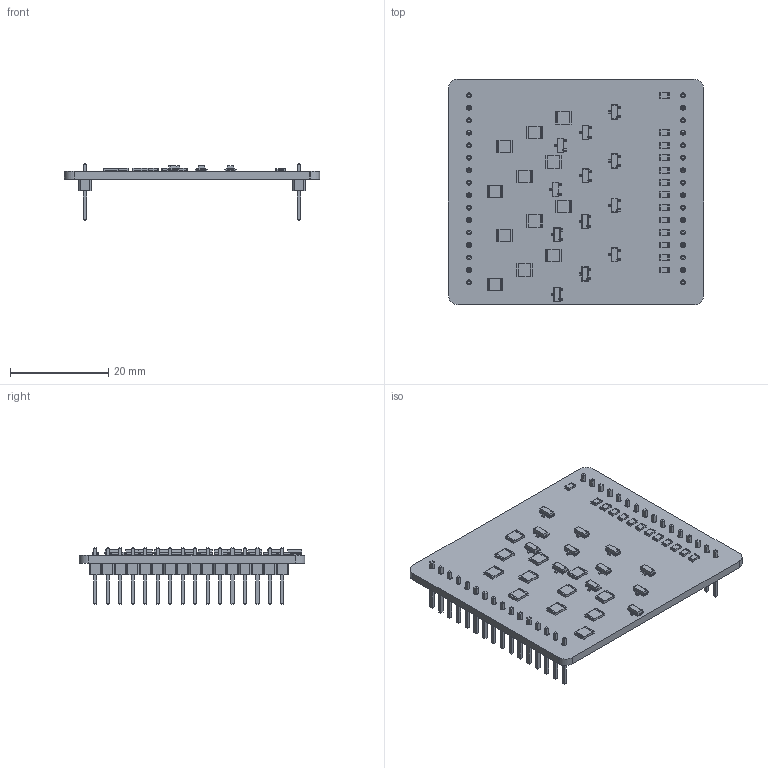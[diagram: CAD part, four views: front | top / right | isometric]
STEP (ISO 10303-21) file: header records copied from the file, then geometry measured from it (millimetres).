
FILE_DESCRIPTION(('KiCad electronic assembly'),'2;1');
FILE_NAME('BMS - Passive Balancer v2.step','2025-02-23T21:03:19',( 'Pcbnew'),('Kicad'),'Open CASCADE STEP processor 7.8', 'KiCad to STEP converter','Unknown');
FILE_SCHEMA(('AUTOMOTIVE_DESIGN { 1 0 10303 214 1 1 1 1 }'));
Length unit declared in the file: millimetre
Products named in the file (10): BMS - Passive Balancer v2 1; R_1210_3225Metric; R_0805_2012Metric; DMG3406L-13; ASSEMBLY; PinHeader_1x16_P2.54mm_Vertical; PinHeader_1x16_P254mm_Vertical; BMS - Passive v2_PCB
Assembly tree (44 placements, depth 3):
  BMS - Passive Balancer v2 1
    R_1210_3225Metric  x12
      R_1210_3225Metric
    R_0805_2012Metric  x13
      R_0805_2012Metric
    DMG3406L-13  x12
      ASSEMBLY
    PinHeader_1x16_P2.54mm_Vertical  x2
      PinHeader_1x16_P254mm_Vertical
    BMS - Passive v2_PCB
Bounding box: 52 x 46 x 11.54 mm (x, y, z)
Volume: 4520.7 mm3; surface area: 7381.1 mm2
Topology: 76 solids, 76 shells, 2227 faces, 5449 edges, 3450 vertices
Faces by surface type: plane 1775, cylinder 452
Full cylindrical faces by diameter (mm): 0.163 x12, 1 x32
Entity records: 19409 total; most frequent: CARTESIAN_POINT 2784, ORIENTED_EDGE 2690, DIRECTION 2663, EDGE_CURVE 1345, LINE 1213, VECTOR 1213, VERTEX_POINT 846, AXIS2_PLACEMENT_3D 725
